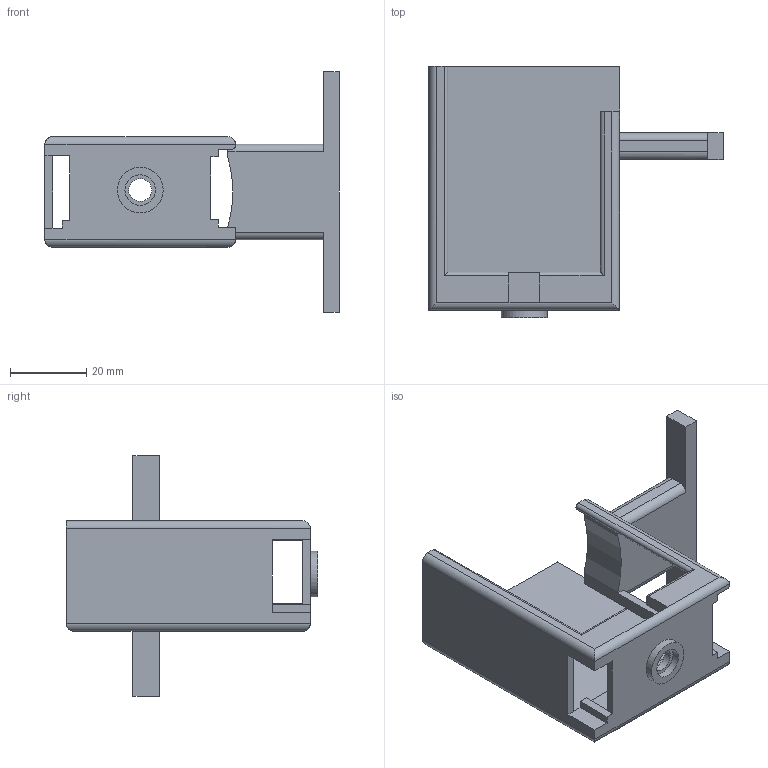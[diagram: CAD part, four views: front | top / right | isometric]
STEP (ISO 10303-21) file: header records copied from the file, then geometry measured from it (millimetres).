
FILE_DESCRIPTION(('sldprt2step conversion of Parasolid XT B-rep'),'2;1');
FILE_NAME('body_new.SLDPRT','',(''),(''),'sldprt2step','','');
FILE_SCHEMA(('AUTOMOTIVE_DESIGN { 1 0 10303 214 1 1 1 1 }'));
Length unit declared in the file: millimetre
Products named in the file (1): body_new
Bounding box: 77.15 x 66 x 63 mm (x, y, z)
Volume: 20925.6 mm3; surface area: 17151.8 mm2
Topology: 1 solids, 1 shells, 78 faces, 219 edges, 141 vertices
Faces by surface type: plane 56, cylinder 22
Full cylindrical faces by diameter (mm): 6 x1, 8 x1, 12 x1
Entity records: 2439 total; most frequent: CARTESIAN_POINT 451, ORIENTED_EDGE 430, DIRECTION 382, EDGE_CURVE 215, VECTOR 178, LINE 178, VERTEX_POINT 140, AXIS2_PLACEMENT_3D 102
